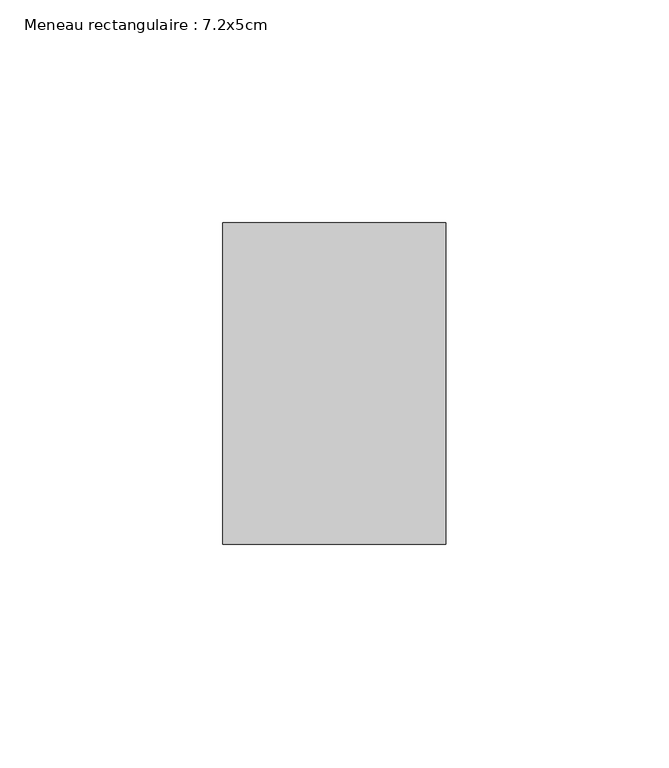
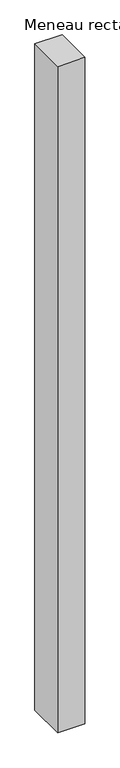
"""IFC4 building model written with IfcOpenShell, lengths in millimetres: member geometry, Meneau rectangulaire : 7.2x5cm."""

from ifc_helpers import new_model, si_unit, frame, origin, place, context, project, spatial, polyline, outline, extrude, source, transform, mapped, element, save


def meneau_rectangulaire_7_2x5cm_d57d312a(model_context):
    return source(origin(), model_context, "Body", "SweptSolid", [
        extrude(outline(polyline([(25.0, 36.0), (25.0, -36.0), (-25.0, -36.0), (-25.0, 36.0), (25.0, 36.0)])), frame((0.0, 0.0, -1290.0), z_axis=(0.0, 0.0, 1.0), x_axis=(1.0, 0.0, 0.0)), (0.0, 0.0, 1.0), 1290.0),
    ])


if __name__ == "__main__":
    model = new_model("IFC4")
    model_context = context("Model", 3, world=origin())
    ifc_project = project(units=[si_unit("LENGTHUNIT", "METRE", prefix="MILLI")], contexts=[model_context])
    site = spatial("IfcSite", under=ifc_project)
    building = spatial("IfcBuilding", under=site)
    placement = place(None, origin())
    meneau_rectangulaire_7_2x5cm_shape = meneau_rectangulaire_7_2x5cm_d57d312a(model_context)
    element("IfcMember", 1, ObjectType="Meneau rectangulaire : 7.2x5cm", at=placement, inside=building, context=model_context, shape_type="MappedRepresentation", body=[
        mapped(meneau_rectangulaire_7_2x5cm_shape, transform((0.0, 0.0, 0.0), x_axis=(1.0, 0.0, 0.0), y_axis=(0.0, 1.0, 0.0), z_axis=(0.0, 0.0, 1.0))),
    ])
    save(model, "model.ifc")
